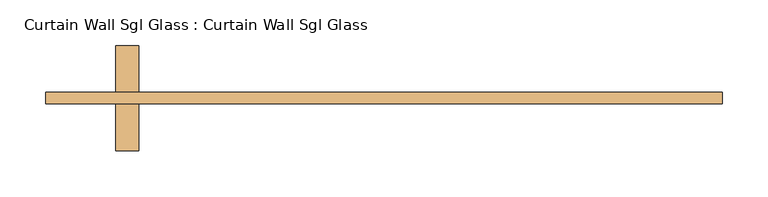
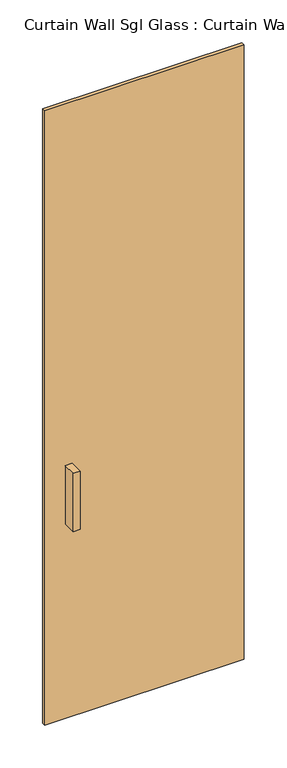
"""IFC4 building model written with IfcOpenShell, lengths in millimetres: door geometry, Curtain Wall Sgl Glass : Curtain Wall Sgl Glass."""

from ifc_helpers import new_model, si_unit, frame, origin, origin_with_axes, place, context, project, spatial, polyline, outline, extrude, source, transform, mapped, element, save


def curtain_wall_sgl_glass_curtain_wall_sgl_glass_683140d0(model_context):
    return source(origin(), model_context, "Body", "SweptSolid", [
        extrude(outline(polyline([(-267.97, 12.7), (-267.97, -38.1), (-293.37, -38.1), (-293.37, 12.7), (-267.97, 12.7)])), frame((0.0, 0.0, 762.0), z_axis=(0.0, 0.0, 1.0), x_axis=(1.0, 0.0, 0.0)), (0.0, 0.0, 1.0), 228.6),
        extrude(outline(polyline([(-293.37, -101.6), (-293.37, -50.8), (-267.97, -50.8), (-267.97, -101.6), (-293.37, -101.6)])), frame((0.0, 0.0, 762.0), z_axis=(0.0, 0.0, 1.0), x_axis=(1.0, 0.0, 0.0)), (0.0, 0.0, 1.0), 228.6),
        extrude(outline(polyline([(369.57, -50.8), (-369.57, -50.8), (-369.57, -38.1), (369.57, -38.1), (369.57, -50.8)])), origin_with_axes(), (0.0, 0.0, 1.0), 2406.65),
    ])


if __name__ == "__main__":
    model = new_model("IFC4")
    model_context = context("Model", 3, world=origin())
    ifc_project = project(units=[si_unit("LENGTHUNIT", "METRE", prefix="MILLI")], contexts=[model_context])
    site = spatial("IfcSite", under=ifc_project)
    building = spatial("IfcBuilding", under=site)
    placement = place(None, origin())
    curtain_wall_sgl_glass_curtain_wall_sgl_glass_shape = curtain_wall_sgl_glass_curtain_wall_sgl_glass_683140d0(model_context)
    element("IfcDoor", 1, ObjectType="Curtain Wall Sgl Glass : Curtain Wall Sgl Glass", at=placement, inside=building, context=model_context, shape_type="MappedRepresentation", body=[
        mapped(curtain_wall_sgl_glass_curtain_wall_sgl_glass_shape, transform((0.0, 0.0, 0.0), x_axis=(1.0, 0.0, 0.0), y_axis=(0.0, 1.0, 0.0), z_axis=(0.0, 0.0, 1.0))),
    ])
    save(model, "model.ifc")
